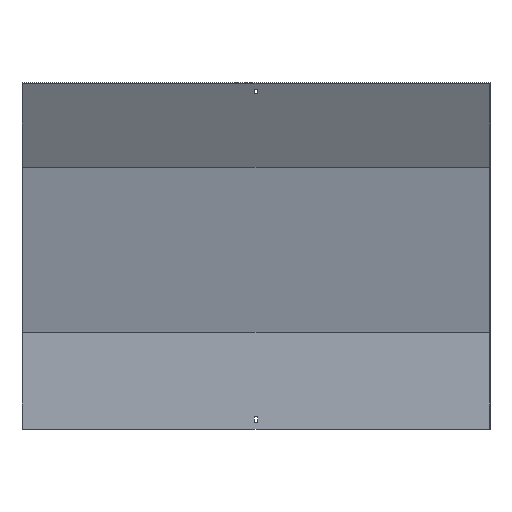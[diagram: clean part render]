
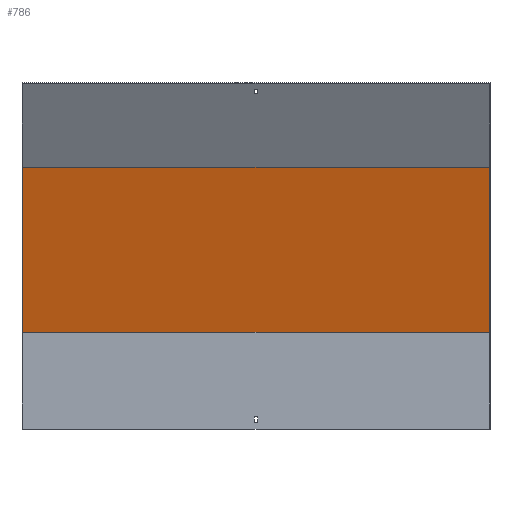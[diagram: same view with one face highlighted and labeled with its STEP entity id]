
A CAD part, front view. The second image highlights one B-rep face of the part: STEP entity #786.
In plain terms, the highlighted planar face has unit normal (0, -0.966, -0.259).
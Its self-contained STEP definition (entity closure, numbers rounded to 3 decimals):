
#9 = LINE ( 'NONE', #71, #451 ) ;
#26 = ORIENTED_EDGE ( 'NONE', *, *, #529, .T. ) ;
#34 = FACE_OUTER_BOUND ( 'NONE', #70, .T. ) ;
#69 = DIRECTION ( 'NONE',  ( -1., 0., 0. ) ) ;
#70 = EDGE_LOOP ( 'NONE', ( #299, #335, #211, #26 ) ) ;
#71 = CARTESIAN_POINT ( 'NONE',  ( -400., 58.87, 15.774 ) ) ;
#79 = AXIS2_PLACEMENT_3D ( 'NONE', #569, #617, #313 ) ;
#85 = DIRECTION ( 'NONE',  ( 0., -0.259, 0.966 ) ) ;
#132 = DIRECTION ( 'NONE',  ( 0., -0.259, 0.966 ) ) ;
#211 = ORIENTED_EDGE ( 'NONE', *, *, #695, .T. ) ;
#224 = VERTEX_POINT ( 'NONE', #516 ) ;
#275 = CARTESIAN_POINT ( 'NONE',  ( -400., -57.301, 449.327 ) ) ;
#286 = CARTESIAN_POINT ( 'NONE',  ( 400., 58.87, 15.774 ) ) ;
#299 = ORIENTED_EDGE ( 'NONE', *, *, #572, .F. ) ;
#313 = DIRECTION ( 'NONE',  ( 0., 0.259, -0.966 ) ) ;
#335 = ORIENTED_EDGE ( 'NONE', *, *, #659, .F. ) ;
#368 = CARTESIAN_POINT ( 'NONE',  ( -400., 18.5, 166.436 ) ) ;
#423 = LINE ( 'NONE', #671, #434 ) ;
#434 = VECTOR ( 'NONE', #555, 1000. ) ;
#443 = VERTEX_POINT ( 'NONE', #807 ) ;
#451 = VECTOR ( 'NONE', #132, 1000. ) ;
#516 = CARTESIAN_POINT ( 'NONE',  ( 400., -57.301, 449.327 ) ) ;
#529 = EDGE_CURVE ( 'NONE', #224, #651, #790, .T. ) ;
#555 = DIRECTION ( 'NONE',  ( -1., 0., 0. ) ) ;
#569 = CARTESIAN_POINT ( 'NONE',  ( 401.5, 17.87, 168.788 ) ) ;
#572 = EDGE_CURVE ( 'NONE', #813, #651, #9, .T. ) ;
#596 = CARTESIAN_POINT ( 'NONE',  ( 401.5, -57.301, 449.327 ) ) ;
#605 = LINE ( 'NONE', #286, #737 ) ;
#617 = DIRECTION ( 'NONE',  ( 0., -0.966, -0.259 ) ) ;
#651 = VERTEX_POINT ( 'NONE', #275 ) ;
#659 = EDGE_CURVE ( 'NONE', #443, #813, #423, .T. ) ;
#671 = CARTESIAN_POINT ( 'NONE',  ( 401.5, 18.5, 166.436 ) ) ;
#695 = EDGE_CURVE ( 'NONE', #443, #224, #605, .T. ) ;
#737 = VECTOR ( 'NONE', #85, 1000. ) ;
#786 = ADVANCED_FACE ( 'NONE', ( #34 ), #814, .T. ) ;
#790 = LINE ( 'NONE', #596, #810 ) ;
#807 = CARTESIAN_POINT ( 'NONE',  ( 400., 18.5, 166.436 ) ) ;
#810 = VECTOR ( 'NONE', #69, 1000. ) ;
#813 = VERTEX_POINT ( 'NONE', #368 ) ;
#814 = PLANE ( 'NONE',  #79 ) ;
